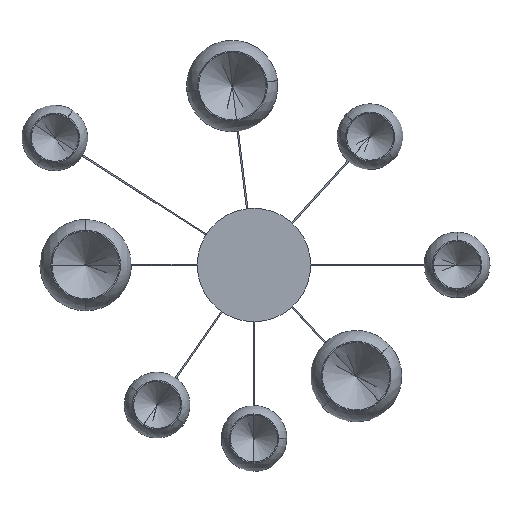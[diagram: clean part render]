
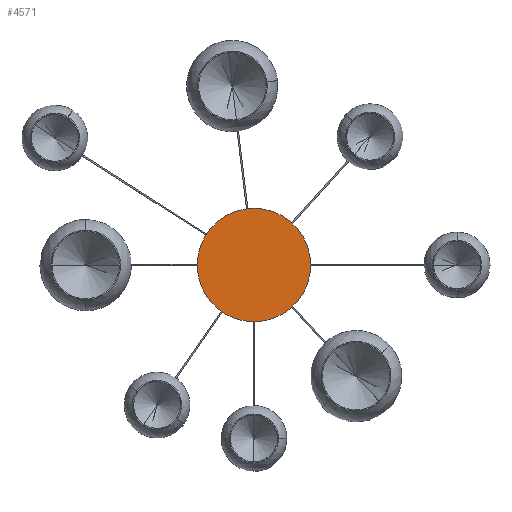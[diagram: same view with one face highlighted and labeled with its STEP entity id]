
A CAD part, front view. The second image highlights one B-rep face of the part: STEP entity #4571.
In plain terms, the highlighted planar face has unit normal (0, -1, 0).
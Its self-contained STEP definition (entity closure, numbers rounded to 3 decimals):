
#180 = DIRECTION ( 'NONE',  ( 0., -1., 0. ) ) ;
#353 = EDGE_CURVE ( 'NONE', #7507, #7088, #7268, .T. ) ;
#704 = AXIS2_PLACEMENT_3D ( 'NONE', #7654, #180, #3210 ) ;
#878 = AXIS2_PLACEMENT_3D ( 'NONE', #4771, #945, #9348 ) ;
#945 = DIRECTION ( 'NONE',  ( 0., -1., 0. ) ) ;
#2508 = EDGE_CURVE ( 'NONE', #7088, #7507, #8969, .T. ) ;
#2855 = ORIENTED_EDGE ( 'NONE', *, *, #353, .T. ) ;
#2982 = AXIS2_PLACEMENT_3D ( 'NONE', #8842, #4866, #8057 ) ;
#3210 = DIRECTION ( 'NONE',  ( 0., 0., -1. ) ) ;
#4571 = ADVANCED_FACE ( 'NONE', ( #7203 ), #7107, .T. ) ;
#4771 = CARTESIAN_POINT ( 'NONE',  ( 155., -17., 0. ) ) ;
#4866 = DIRECTION ( 'NONE',  ( 0., -1., 0. ) ) ;
#5659 = CARTESIAN_POINT ( 'NONE',  ( 0., -17., -155. ) ) ;
#6634 = EDGE_LOOP ( 'NONE', ( #2855, #6780 ) ) ;
#6780 = ORIENTED_EDGE ( 'NONE', *, *, #2508, .T. ) ;
#7088 = VERTEX_POINT ( 'NONE', #9670 ) ;
#7107 = PLANE ( 'NONE',  #878 ) ;
#7203 = FACE_OUTER_BOUND ( 'NONE', #6634, .T. ) ;
#7268 = CIRCLE ( 'NONE', #2982, 155. ) ;
#7507 = VERTEX_POINT ( 'NONE', #5659 ) ;
#7654 = CARTESIAN_POINT ( 'NONE',  ( 0., -17., 0. ) ) ;
#8057 = DIRECTION ( 'NONE',  ( 0., 0., -1. ) ) ;
#8842 = CARTESIAN_POINT ( 'NONE',  ( 0., -17., 0. ) ) ;
#8969 = CIRCLE ( 'NONE', #704, 155. ) ;
#9348 = DIRECTION ( 'NONE',  ( 0., 0., -1. ) ) ;
#9670 = CARTESIAN_POINT ( 'NONE',  ( 0., -17., 155. ) ) ;
